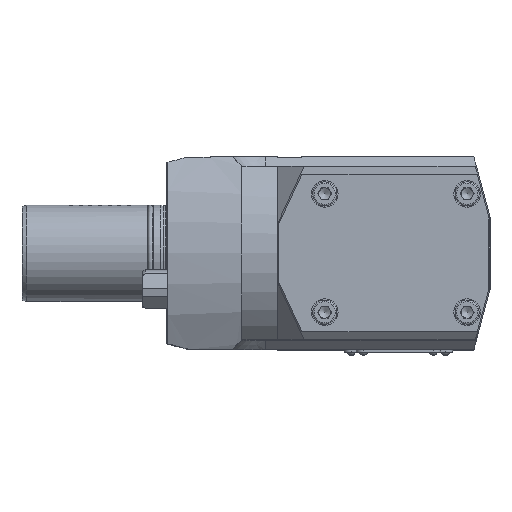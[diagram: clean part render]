
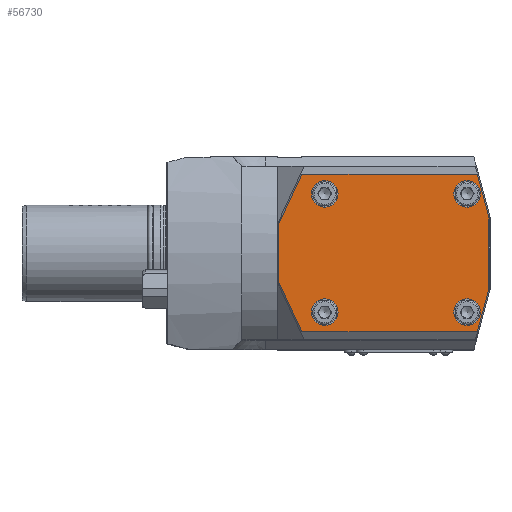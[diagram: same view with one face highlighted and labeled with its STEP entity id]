
A CAD part, top view. The second image highlights one B-rep face of the part: STEP entity #56730.
In plain terms, the highlighted planar face has unit normal (0, 0, 1).
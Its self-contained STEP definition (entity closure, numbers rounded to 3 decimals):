
#23899=CIRCLE('',#54880,5.5);
#23900=CIRCLE('',#54881,5.5);
#23901=CIRCLE('',#54882,5.5);
#23902=CIRCLE('',#54883,5.5);
#25165=ORIENTED_EDGE('',*,*,#32445,.F.);
#25166=ORIENTED_EDGE('',*,*,#32461,.F.);
#25167=ORIENTED_EDGE('',*,*,#32462,.F.);
#25168=ORIENTED_EDGE('',*,*,#32463,.F.);
#25169=ORIENTED_EDGE('',*,*,#32457,.F.);
#25170=ORIENTED_EDGE('',*,*,#32464,.F.);
#25171=ORIENTED_EDGE('',*,*,#32465,.F.);
#25172=ORIENTED_EDGE('',*,*,#32466,.F.);
#25173=ORIENTED_EDGE('',*,*,#32467,.F.);
#25174=ORIENTED_EDGE('',*,*,#32468,.F.);
#25175=ORIENTED_EDGE('',*,*,#32469,.F.);
#25176=ORIENTED_EDGE('',*,*,#32470,.F.);
#28726=VECTOR('',#36914,1.);
#28738=VECTOR('',#36938,1.);
#28742=VECTOR('',#36944,1.);
#28743=VECTOR('',#36945,1.);
#28744=VECTOR('',#36946,1.);
#28745=VECTOR('',#36947,1.);
#28746=VECTOR('',#36948,1.);
#28747=VECTOR('',#36949,1.);
#29851=LINE('',#40961,#28726);
#29863=LINE('',#40986,#28738);
#29867=LINE('',#40993,#28742);
#29868=LINE('',#40995,#28743);
#29869=LINE('',#40996,#28744);
#29870=LINE('',#40998,#28745);
#29871=LINE('',#41000,#28746);
#29872=LINE('',#41001,#28747);
#30991=VERTEX_POINT('',#40958);
#30992=VERTEX_POINT('',#40960);
#30998=VERTEX_POINT('',#40984);
#30999=VERTEX_POINT('',#40985);
#31001=VERTEX_POINT('',#40992);
#31002=VERTEX_POINT('',#40994);
#31003=VERTEX_POINT('',#40997);
#31004=VERTEX_POINT('',#40999);
#31005=VERTEX_POINT('',#41002);
#31006=VERTEX_POINT('',#41004);
#31007=VERTEX_POINT('',#41006);
#31008=VERTEX_POINT('',#41008);
#32445=EDGE_CURVE('',#30991,#30992,#29851,.T.);
#32457=EDGE_CURVE('',#30998,#30999,#29863,.T.);
#32461=EDGE_CURVE('',#31001,#30991,#29867,.T.);
#32462=EDGE_CURVE('',#31002,#31001,#29868,.T.);
#32463=EDGE_CURVE('',#30999,#31002,#29869,.T.);
#32464=EDGE_CURVE('',#31003,#30998,#29870,.T.);
#32465=EDGE_CURVE('',#31004,#31003,#29871,.T.);
#32466=EDGE_CURVE('',#30992,#31004,#29872,.T.);
#32467=EDGE_CURVE('',#31005,#31005,#23899,.T.);
#32468=EDGE_CURVE('',#31006,#31006,#23900,.T.);
#32469=EDGE_CURVE('',#31007,#31007,#23901,.T.);
#32470=EDGE_CURVE('',#31008,#31008,#23902,.T.);
#34258=EDGE_LOOP('',(#25165,#25166,#25167,#25168,#25169,#25170,#25171,#25172));
#34259=EDGE_LOOP('',(#25173));
#34260=EDGE_LOOP('',(#25174));
#34261=EDGE_LOOP('',(#25175));
#34262=EDGE_LOOP('',(#25176));
#35344=FACE_BOUND('',#34258,.T.);
#35345=FACE_BOUND('',#34259,.T.);
#35346=FACE_BOUND('',#34260,.T.);
#35347=FACE_BOUND('',#34261,.T.);
#35348=FACE_BOUND('',#34262,.T.);
#36914=DIRECTION('',(72.709,0.,0.));
#36938=DIRECTION('',(-72.709,0.,0.));
#36942=DIRECTION('',(0.,0.,1.));
#36943=DIRECTION('',(0.,-1.,0.));
#36944=DIRECTION('',(9.524,20.425,0.));
#36945=DIRECTION('',(0.,24.599,0.));
#36946=DIRECTION('',(-9.524,20.425,0.));
#36947=DIRECTION('',(-4.767,-17.79,0.));
#36948=DIRECTION('',(0.,-29.868,0.));
#36949=DIRECTION('',(4.767,-17.79,0.));
#36950=DIRECTION('',(0.,0.,1.));
#36951=DIRECTION('',(5.5,0.,0.));
#36952=DIRECTION('',(0.,0.,1.));
#36953=DIRECTION('',(5.5,0.,0.));
#36954=DIRECTION('',(0.,0.,1.));
#36955=DIRECTION('',(5.5,0.,0.));
#36956=DIRECTION('',(0.,0.,1.));
#36957=DIRECTION('',(5.5,0.,0.));
#40958=CARTESIAN_POINT('',(55.974,32.724,61.));
#40960=CARTESIAN_POINT('',(128.683,32.724,61.));
#40961=CARTESIAN_POINT('',(55.974,32.724,61.));
#40984=CARTESIAN_POINT('',(128.683,-32.724,61.));
#40985=CARTESIAN_POINT('',(55.974,-32.724,61.));
#40986=CARTESIAN_POINT('',(128.683,-32.724,61.));
#40991=CARTESIAN_POINT('',(133.95,-15.,61.));
#40992=CARTESIAN_POINT('',(46.45,12.3,61.));
#40993=CARTESIAN_POINT('',(46.45,12.3,61.));
#40994=CARTESIAN_POINT('',(46.45,-12.3,61.));
#40995=CARTESIAN_POINT('',(46.45,-12.3,61.));
#40996=CARTESIAN_POINT('',(55.974,-32.724,61.));
#40997=CARTESIAN_POINT('',(133.45,-14.934,61.));
#40998=CARTESIAN_POINT('',(133.45,-14.934,61.));
#40999=CARTESIAN_POINT('',(133.45,14.934,61.));
#41000=CARTESIAN_POINT('',(133.45,14.934,61.));
#41001=CARTESIAN_POINT('',(128.683,32.724,61.));
#41002=CARTESIAN_POINT('',(129.95,-24.5,61.));
#41003=CARTESIAN_POINT('',(124.45,-24.5,61.));
#41004=CARTESIAN_POINT('',(129.95,24.5,61.));
#41005=CARTESIAN_POINT('',(124.45,24.5,61.));
#41006=CARTESIAN_POINT('',(70.95,-24.5,61.));
#41007=CARTESIAN_POINT('',(65.45,-24.5,61.));
#41008=CARTESIAN_POINT('',(70.95,24.5,61.));
#41009=CARTESIAN_POINT('',(65.45,24.5,61.));
#54879=AXIS2_PLACEMENT_3D('',#40991,#36942,#36943);
#54880=AXIS2_PLACEMENT_3D('',#41003,#36950,#36951);
#54881=AXIS2_PLACEMENT_3D('',#41005,#36952,#36953);
#54882=AXIS2_PLACEMENT_3D('',#41007,#36954,#36955);
#54883=AXIS2_PLACEMENT_3D('',#41009,#36956,#36957);
#56158=PLANE('',#54879);
#56730=ADVANCED_FACE('',(#35344,#35345,#35346,#35347,#35348),#56158,.T.);
